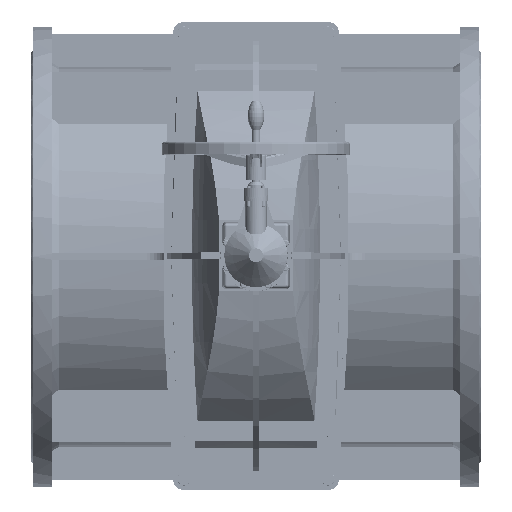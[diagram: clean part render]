
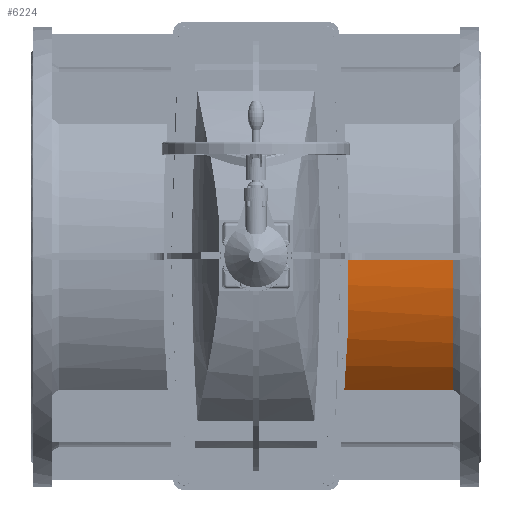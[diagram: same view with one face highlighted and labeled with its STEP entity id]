
A CAD part, top view. The second image highlights one B-rep face of the part: STEP entity #6224.
In plain terms, the highlighted cylindrical face has radius 465.5 mm (diameter 931 mm), a partial arc.
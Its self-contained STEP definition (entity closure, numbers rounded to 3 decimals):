
#6224=ADVANCED_FACE('',(#10581),#10583,.T.);
#10581=FACE_BOUND('',#10582,.T.);
#10582=EDGE_LOOP('',(#27567,#27568,#27569,#27570));
#10583=CYLINDRICAL_SURFACE('',#10584,465.5);
#10584=AXIS2_PLACEMENT_3D('',#10585,#10586,#10587);
#10585=CARTESIAN_POINT('',(498.5,0.,0.));
#10586=DIRECTION('',(-1.,0.,0.));
#10587=DIRECTION('',(0.,1.,0.));
#27567=ORIENTED_EDGE('',*,*,#35980,.F.);
#27568=ORIENTED_EDGE('',*,*,#36077,.T.);
#27569=ORIENTED_EDGE('',*,*,#36078,.F.);
#27570=ORIENTED_EDGE('',*,*,#36079,.T.);
#35980=EDGE_CURVE('',#40073,#40075,#40076,.T.);
#36077=EDGE_CURVE('',#40073,#40230,#40232,.T.);
#36078=EDGE_CURVE('',#40233,#40230,#40234,.F.);
#36079=EDGE_CURVE('',#40233,#40075,#40235,.F.);
#40073=VERTEX_POINT('',#47391);
#40075=VERTEX_POINT('',#47402);
#40076=LINE('',#47403,#47404);
#40230=VERTEX_POINT('',#47943);
#40232=CIRCLE('',#47954,465.5);
#40233=VERTEX_POINT('',#47958);
#40234=LINE('',#47959,#47960);
#40235=B_SPLINE_CURVE_WITH_KNOTS('',3,
(#47962,#47963,#47964,#47965,#47966,#47967,#47968,#47969,#47970,#47971,#47972,#47973,
#47974,#47975,#47976,#47977,#47978,#47979,#47980,#47981,#47982,#47983,#47984,#47985,
#47986,#47987,#47988,#47989,#47990,#47991,#47992,#47993,#47994,#47995,#47996,#47997,
#47998,#47999,#48000,#48001,#48002,#48003),
.UNSPECIFIED.,.F.,.F.,
(4,1,1,1,1,1,1,1,1,1,1,1,1,1,1,1,1,1,1,1,1,1,1,1,1,1,1,1,1,1,1,1,1,1,1,1,1,1,1,4),
(0.,0.015,0.03,0.045,0.066,
0.098,0.143,0.186,0.223,0.253,
0.284,0.329,0.375,0.423,0.456,
0.487,0.515,0.543,0.571,0.599,
0.626,0.653,0.679,0.704,0.729,
0.753,0.776,0.798,0.818,0.838,
0.856,0.874,0.895,0.916,0.936,
0.949,0.963,0.975,0.988,1.),
.UNSPECIFIED.);
#47391=CARTESIAN_POINT('',(483.,-325.247,333.024));
#47402=CARTESIAN_POINT('',(147.387,-325.247,333.024));
#47403=CARTESIAN_POINT('',(483.,-325.247,333.024));
#47404=VECTOR('',#47405,1.);
#47405=DIRECTION('',(-1.,0.,0.));
#47943=CARTESIAN_POINT('',(483.,-7.75,465.435));
#47954=AXIS2_PLACEMENT_3D('',#47955,#47956,#47957);
#47955=CARTESIAN_POINT('',(483.,0.,0.));
#47956=DIRECTION('',(-1.,0.,0.));
#47957=DIRECTION('',(0.,-0.699,0.715));
#47958=CARTESIAN_POINT('',(166.994,-7.75,465.435));
#47959=CARTESIAN_POINT('',(483.,-7.75,465.435));
#47960=VECTOR('',#47961,1.);
#47961=DIRECTION('',(-1.,0.,0.));
#47962=CARTESIAN_POINT('',(147.387,-325.247,333.024));
#47963=CARTESIAN_POINT('',(147.533,-324.014,334.228));
#47964=CARTESIAN_POINT('',(147.827,-321.514,336.642));
#47965=CARTESIAN_POINT('',(148.273,-317.692,340.252));
#47966=CARTESIAN_POINT('',(148.781,-313.275,344.329));
#47967=CARTESIAN_POINT('',(149.458,-307.306,349.69));
#47968=CARTESIAN_POINT('',(150.42,-298.625,357.176));
#47969=CARTESIAN_POINT('',(151.59,-287.714,366.047));
#47970=CARTESIAN_POINT('',(152.788,-276.083,374.88));
#47971=CARTESIAN_POINT('',(153.83,-265.563,382.378));
#47972=CARTESIAN_POINT('',(154.746,-255.991,388.842));
#47973=CARTESIAN_POINT('',(155.722,-245.443,395.613));
#47974=CARTESIAN_POINT('',(156.816,-233.097,403.041));
#47975=CARTESIAN_POINT('',(158.003,-218.911,410.923));
#47976=CARTESIAN_POINT('',(159.045,-205.672,417.68));
#47977=CARTESIAN_POINT('',(159.921,-193.85,423.267));
#47978=CARTESIAN_POINT('',(160.62,-183.918,427.669));
#47979=CARTESIAN_POINT('',(161.255,-174.451,431.613));
#47980=CARTESIAN_POINT('',(161.843,-165.211,435.233));
#47981=CARTESIAN_POINT('',(162.402,-155.955,438.635));
#47982=CARTESIAN_POINT('',(162.926,-146.752,441.798));
#47983=CARTESIAN_POINT('',(163.415,-137.613,444.728));
#47984=CARTESIAN_POINT('',(163.868,-128.614,447.412));
#47985=CARTESIAN_POINT('',(164.283,-119.763,449.86));
#47986=CARTESIAN_POINT('',(164.66,-111.138,452.067));
#47987=CARTESIAN_POINT('',(165.003,-102.679,454.061));
#47988=CARTESIAN_POINT('',(165.31,-94.465,455.839));
#47989=CARTESIAN_POINT('',(165.583,-86.503,457.415));
#47990=CARTESIAN_POINT('',(165.821,-78.936,458.779));
#47991=CARTESIAN_POINT('',(166.028,-71.699,459.964));
#47992=CARTESIAN_POINT('',(166.206,-64.865,460.975));
#47993=CARTESIAN_POINT('',(166.358,-58.369,461.84));
#47994=CARTESIAN_POINT('',(166.499,-51.676,462.64));
#47995=CARTESIAN_POINT('',(166.627,-44.71,463.368));
#47996=CARTESIAN_POINT('',(166.741,-37.469,464.008));
#47997=CARTESIAN_POINT('',(166.822,-31.142,464.47));
#47998=CARTESIAN_POINT('',(166.881,-25.664,464.8));
#47999=CARTESIAN_POINT('',(166.923,-21.002,465.034));
#48000=CARTESIAN_POINT('',(166.955,-16.474,465.215));
#48001=CARTESIAN_POINT('',(166.979,-12.08,465.35));
#48002=CARTESIAN_POINT('',(166.99,-9.182,465.412));
#48003=CARTESIAN_POINT('',(166.994,-7.75,465.435));
